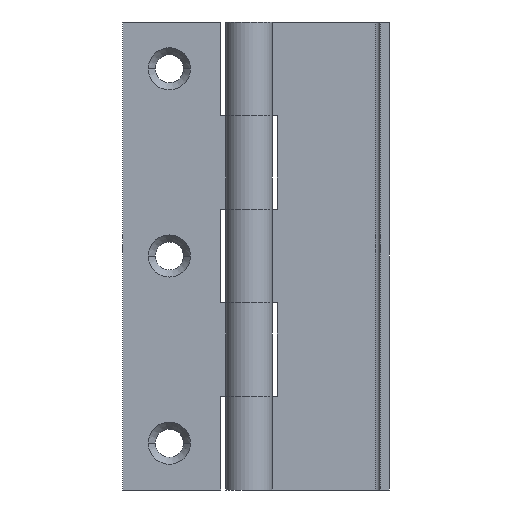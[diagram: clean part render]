
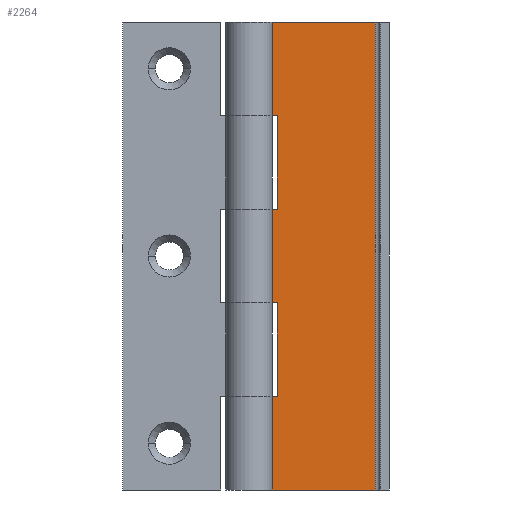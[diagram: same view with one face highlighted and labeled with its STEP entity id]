
A CAD part, front view. The second image highlights one B-rep face of the part: STEP entity #2264.
In plain terms, the highlighted planar face has unit normal (0, -1, 0).
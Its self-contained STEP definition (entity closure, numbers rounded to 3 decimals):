
#1664=CARTESIAN_POINT('',(0.,1.5,0.0));
#1665=VERTEX_POINT('',#1664);
#1673=CARTESIAN_POINT('',(0.,1.5,10.0));
#1674=VERTEX_POINT('',#1673);
#1675=CARTESIAN_POINT('',(0.,1.5,10.0));
#1676=DIRECTION('',(0.0,0.0,-1.0));
#1677=VECTOR('',#1676,10.0);
#1678=LINE('',#1675,#1677);
#1679=EDGE_CURVE('',#1674,#1665,#1678,.T.);
#1689=CARTESIAN_POINT('',(0.,1.5,20.0));
#1690=VERTEX_POINT('',#1689);
#1698=CARTESIAN_POINT('',(0.,1.5,30.0));
#1699=VERTEX_POINT('',#1698);
#1700=CARTESIAN_POINT('',(0.,1.5,30.0));
#1701=DIRECTION('',(0.0,0.0,-1.0));
#1702=VECTOR('',#1701,10.0);
#1703=LINE('',#1700,#1702);
#1704=EDGE_CURVE('',#1699,#1690,#1703,.T.);
#1714=CARTESIAN_POINT('',(0.,1.5,40.0));
#1715=VERTEX_POINT('',#1714);
#1723=CARTESIAN_POINT('',(0.,1.5,50.0));
#1724=VERTEX_POINT('',#1723);
#1725=CARTESIAN_POINT('',(0.,1.5,50.0));
#1726=DIRECTION('',(0.0,0.0,-1.0));
#1727=VECTOR('',#1726,10.0);
#1728=LINE('',#1725,#1727);
#1729=EDGE_CURVE('',#1724,#1715,#1728,.T.);
#1835=CARTESIAN_POINT('',(3.,1.5,10.0));
#1836=VERTEX_POINT('',#1835);
#1837=CARTESIAN_POINT('',(3.,1.5,10.0));
#1838=DIRECTION('',(-1.0,0.0,0.0));
#1839=VECTOR('',#1838,3.0);
#1840=LINE('',#1837,#1839);
#1841=EDGE_CURVE('',#1836,#1674,#1840,.T.);
#1885=CARTESIAN_POINT('',(3.,1.5,20.0));
#1886=VERTEX_POINT('',#1885);
#1887=CARTESIAN_POINT('',(0.,1.5,20.0));
#1888=DIRECTION('',(1.0,0.0,0.0));
#1889=VECTOR('',#1888,3.);
#1890=LINE('',#1887,#1889);
#1891=EDGE_CURVE('',#1690,#1886,#1890,.T.);
#1935=CARTESIAN_POINT('',(3.,1.5,20.0));
#1936=DIRECTION('',(0.0,0.0,-1.0));
#1937=VECTOR('',#1936,10.0);
#1938=LINE('',#1935,#1937);
#1939=EDGE_CURVE('',#1886,#1836,#1938,.T.);
#2099=CARTESIAN_POINT('',(3.,1.5,30.0));
#2100=VERTEX_POINT('',#2099);
#2101=CARTESIAN_POINT('',(3.,1.5,30.0));
#2102=DIRECTION('',(-1.0,0.0,0.0));
#2103=VECTOR('',#2102,3.0);
#2104=LINE('',#2101,#2103);
#2105=EDGE_CURVE('',#2100,#1699,#2104,.T.);
#2129=CARTESIAN_POINT('',(3.,1.5,40.0));
#2130=VERTEX_POINT('',#2129);
#2131=CARTESIAN_POINT('',(0.,1.5,40.0));
#2132=DIRECTION('',(1.0,0.0,0.0));
#2133=VECTOR('',#2132,3.0);
#2134=LINE('',#2131,#2133);
#2135=EDGE_CURVE('',#1715,#2130,#2134,.T.);
#2172=CARTESIAN_POINT('',(3.,1.5,40.0));
#2173=DIRECTION('',(0.0,0.0,-1.0));
#2174=VECTOR('',#2173,10.0);
#2175=LINE('',#2172,#2174);
#2176=EDGE_CURVE('',#2130,#2100,#2175,.T.);
#2226=CARTESIAN_POINT('',(0.,1.5,50.0));
#2227=DIRECTION('',(0.0,-1.0,0.0));
#2228=DIRECTION('',(0.0,0.0,-1.0));
#2229=AXIS2_PLACEMENT_3D('',#2226,#2227,#2228);
#2230=PLANE('',#2229);
#2231=ORIENTED_EDGE('',*,*,#1841,.T.);
#2232=ORIENTED_EDGE('',*,*,#1679,.T.);
#2233=CARTESIAN_POINT('',(13.5,1.5,0.0));
#2234=VERTEX_POINT('',#2233);
#2235=CARTESIAN_POINT('',(0.,1.5,0.0));
#2236=DIRECTION('',(1.0,0.0,0.0));
#2237=VECTOR('',#2236,13.5);
#2238=LINE('',#2235,#2237);
#2239=EDGE_CURVE('',#1665,#2234,#2238,.T.);
#2240=ORIENTED_EDGE('',*,*,#2239,.T.);
#2241=CARTESIAN_POINT('',(13.5,1.5,50.0));
#2242=VERTEX_POINT('',#2241);
#2243=CARTESIAN_POINT('',(13.5,1.5,50.0));
#2244=DIRECTION('',(0.0,0.0,-1.0));
#2245=VECTOR('',#2244,50.0);
#2246=LINE('',#2243,#2245);
#2247=EDGE_CURVE('',#2242,#2234,#2246,.T.);
#2248=ORIENTED_EDGE('',*,*,#2247,.F.);
#2249=CARTESIAN_POINT('',(0.,1.5,50.0));
#2250=DIRECTION('',(1.0,0.0,0.0));
#2251=VECTOR('',#2250,13.5);
#2252=LINE('',#2249,#2251);
#2253=EDGE_CURVE('',#1724,#2242,#2252,.T.);
#2254=ORIENTED_EDGE('',*,*,#2253,.F.);
#2255=ORIENTED_EDGE('',*,*,#1729,.T.);
#2256=ORIENTED_EDGE('',*,*,#2135,.T.);
#2257=ORIENTED_EDGE('',*,*,#2176,.T.);
#2258=ORIENTED_EDGE('',*,*,#2105,.T.);
#2259=ORIENTED_EDGE('',*,*,#1704,.T.);
#2260=ORIENTED_EDGE('',*,*,#1891,.T.);
#2261=ORIENTED_EDGE('',*,*,#1939,.T.);
#2262=EDGE_LOOP('',(#2231,#2232,#2240,#2248,#2254,#2255,#2256,#2257,#2258,#2259,#2260,#2261));
#2263=FACE_OUTER_BOUND('',#2262,.T.);
#2264=ADVANCED_FACE('',(#2263),#2230,.T.);
